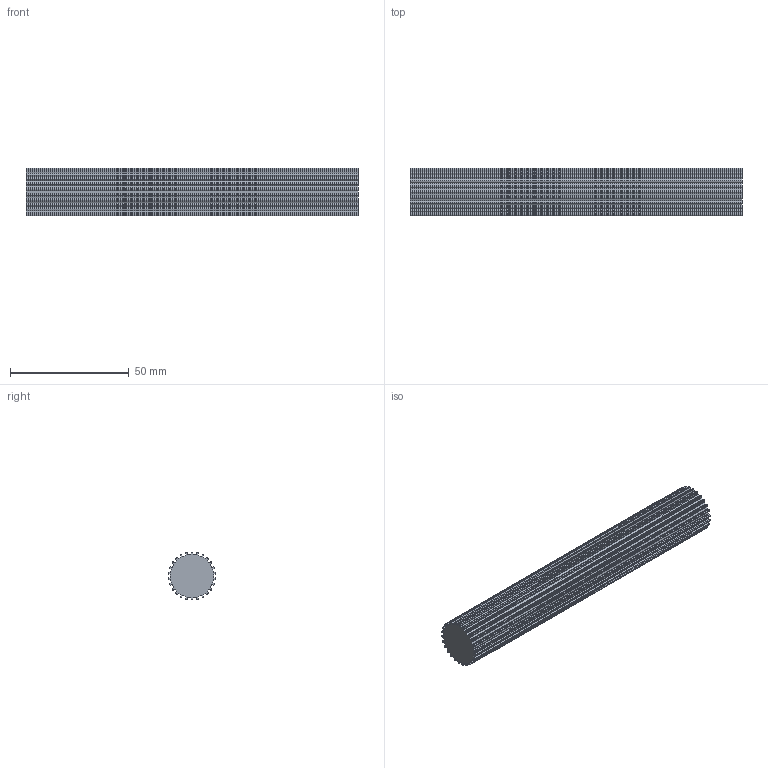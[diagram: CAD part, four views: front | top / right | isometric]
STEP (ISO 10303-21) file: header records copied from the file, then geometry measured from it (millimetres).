
FILE_DESCRIPTION( ( 'STEP AP214' ), '1' );
FILE_NAME( 'C:/Users/StangenbergN/Documents/CAD_Step/1/16092600.stp', '2019-07-25T19:41:30', ( '' ), ( '' ), ' ', 'PARTsolutions', ' ' );
FILE_SCHEMA( ( 'AUTOMOTIVE_DESIGN { 1 0 10303 214 1 1 1 1 }' ) );
Length unit declared in the file: millimetre
Products named in the file (1): _16092600
Bounding box: 140 x 20.06 x 20.19 mm (x, y, z)
Volume: 39418.3 mm3; surface area: 13546.8 mm2
Topology: 1 solids, 1 shells, 210 faces, 624 edges, 416 vertices
Faces by surface type: cylinder 130, plane 80
Entity records: 8844 total; most frequent: DIRECTION 1306, CARTESIAN_POINT 1251, ORIENTED_EDGE 1248, EDGE_CURVE 624, AXIS2_PLACEMENT_3D 471, VERTEX_POINT 416, LINE 364, VECTOR 364
